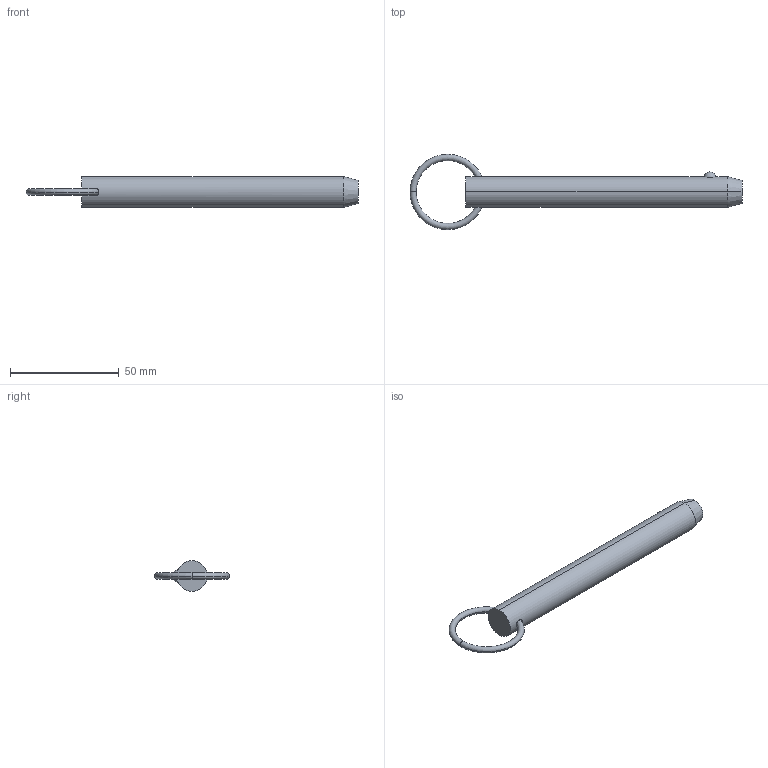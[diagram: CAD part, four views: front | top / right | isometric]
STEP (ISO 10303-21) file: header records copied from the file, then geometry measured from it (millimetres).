
FILE_DESCRIPTION (( 'STEP AP203' ), '1' );
FILE_NAME ('33010.W5640.step', '2024-11-01T10:40:24', ( '' ), ( '' ), 'SwSTEP 2.0', 'SolidWorks 2019', '' );
FILE_SCHEMA (( 'CONFIG_CONTROL_DESIGN' ));
Length unit declared in the file: millimetre
Products named in the file (3): Part1_33010.W5640; Part2_33010.W5640; 33010.W5640
Assembly tree (2 placements, depth 2):
  33010.W5640
    Part1_33010.W5640
    Part2_33010.W5640
Bounding box: 152.5 x 34.59 x 14.22 mm (x, y, z)
Volume: 20443.8 mm3; surface area: 6940.6 mm2
Topology: 2 solids, 2 shells, 16 faces, 31 edges, 18 vertices
Faces by surface type: torus 8, sphere 2, cone 2, cylinder 2, plane 2
Entity records: 875 total; most frequent: CARTESIAN_POINT 232, DIRECTION 88, ORIENTED_EDGE 62, AXIS2_PLACEMENT_3D 42, EDGE_CURVE 31, PERSON_AND_ORGANIZATION 26, CIRCLE 21, DATE_AND_TIME 19
